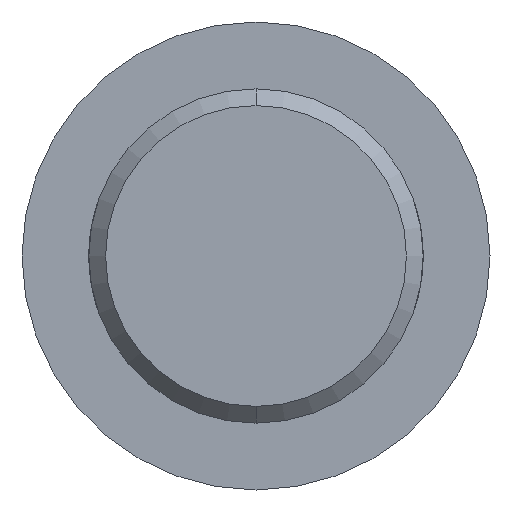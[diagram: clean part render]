
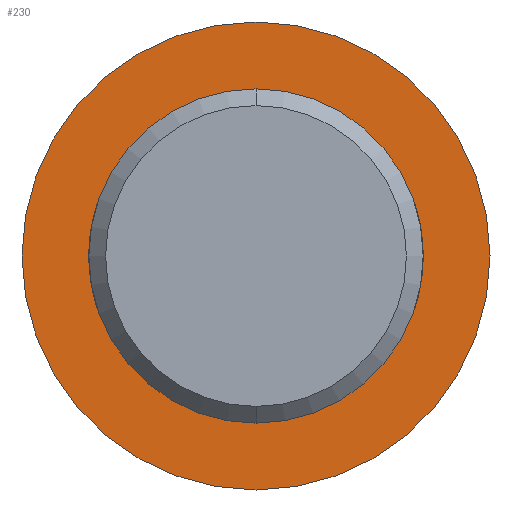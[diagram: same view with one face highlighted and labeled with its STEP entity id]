
A CAD part, front view. The second image highlights one B-rep face of the part: STEP entity #230.
In plain terms, the highlighted planar face has unit normal (0, -1, 0).
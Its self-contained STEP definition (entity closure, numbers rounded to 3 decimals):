
#2 = CARTESIAN_POINT ( 'NONE',  ( 0., 0., 0. ) ) ;
#5 = EDGE_CURVE ( 'NONE', #142, #68, #210, .T. ) ;
#13 = ORIENTED_EDGE ( 'NONE', *, *, #5, .F. ) ;
#21 = DIRECTION ( 'NONE',  ( 0., 0., 1. ) ) ;
#23 = VERTEX_POINT ( 'NONE', #416 ) ;
#35 = DIRECTION ( 'NONE',  ( 0., -1., 0. ) ) ;
#41 = CIRCLE ( 'NONE', #364, 7. ) ;
#68 = VERTEX_POINT ( 'NONE', #302 ) ;
#80 = DIRECTION ( 'NONE',  ( 0., 1., 0. ) ) ;
#101 = DIRECTION ( 'NONE',  ( 0., 1., 0. ) ) ;
#107 = ORIENTED_EDGE ( 'NONE', *, *, #173, .F. ) ;
#112 = ORIENTED_EDGE ( 'NONE', *, *, #324, .F. ) ;
#123 = DIRECTION ( 'NONE',  ( 0., 0., -1. ) ) ;
#142 = VERTEX_POINT ( 'NONE', #454 ) ;
#173 = EDGE_CURVE ( 'NONE', #243, #23, #183, .T. ) ;
#183 = CIRCLE ( 'NONE', #484, 5. ) ;
#198 = EDGE_LOOP ( 'NONE', ( #13, #112 ) ) ;
#207 = CARTESIAN_POINT ( 'NONE',  ( 0., 0., -5. ) ) ;
#210 = CIRCLE ( 'NONE', #303, 7. ) ;
#230 = ADVANCED_FACE ( 'NONE', ( #362, #489 ), #247, .F. ) ;
#241 = CARTESIAN_POINT ( 'NONE',  ( 0., 0., 0. ) ) ;
#243 = VERTEX_POINT ( 'NONE', #207 ) ;
#247 = PLANE ( 'NONE',  #373 ) ;
#248 = AXIS2_PLACEMENT_3D ( 'NONE', #291, #35, #123 ) ;
#256 = DIRECTION ( 'NONE',  ( 0., 0., 1. ) ) ;
#267 = CIRCLE ( 'NONE', #248, 5. ) ;
#273 = CARTESIAN_POINT ( 'NONE',  ( 0., 0., 0. ) ) ;
#291 = CARTESIAN_POINT ( 'NONE',  ( 0., 0., 0. ) ) ;
#292 = DIRECTION ( 'NONE',  ( 0., 1., 0. ) ) ;
#302 = CARTESIAN_POINT ( 'NONE',  ( 0., 0., 7. ) ) ;
#303 = AXIS2_PLACEMENT_3D ( 'NONE', #437, #80, #256 ) ;
#324 = EDGE_CURVE ( 'NONE', #68, #142, #41, .T. ) ;
#330 = EDGE_LOOP ( 'NONE', ( #354, #107 ) ) ;
#340 = DIRECTION ( 'NONE',  ( 0., -1., 0. ) ) ;
#354 = ORIENTED_EDGE ( 'NONE', *, *, #405, .F. ) ;
#362 = FACE_BOUND ( 'NONE', #330, .T. ) ;
#364 = AXIS2_PLACEMENT_3D ( 'NONE', #273, #101, #21 ) ;
#373 = AXIS2_PLACEMENT_3D ( 'NONE', #241, #292, #408 ) ;
#405 = EDGE_CURVE ( 'NONE', #23, #243, #267, .T. ) ;
#408 = DIRECTION ( 'NONE',  ( 0., 0., 1. ) ) ;
#416 = CARTESIAN_POINT ( 'NONE',  ( 0., 0., 5. ) ) ;
#437 = CARTESIAN_POINT ( 'NONE',  ( 0., 0., 0. ) ) ;
#451 = DIRECTION ( 'NONE',  ( 0., 0., -1. ) ) ;
#454 = CARTESIAN_POINT ( 'NONE',  ( 0., 0., -7. ) ) ;
#484 = AXIS2_PLACEMENT_3D ( 'NONE', #2, #340, #451 ) ;
#489 = FACE_OUTER_BOUND ( 'NONE', #198, .T. ) ;
